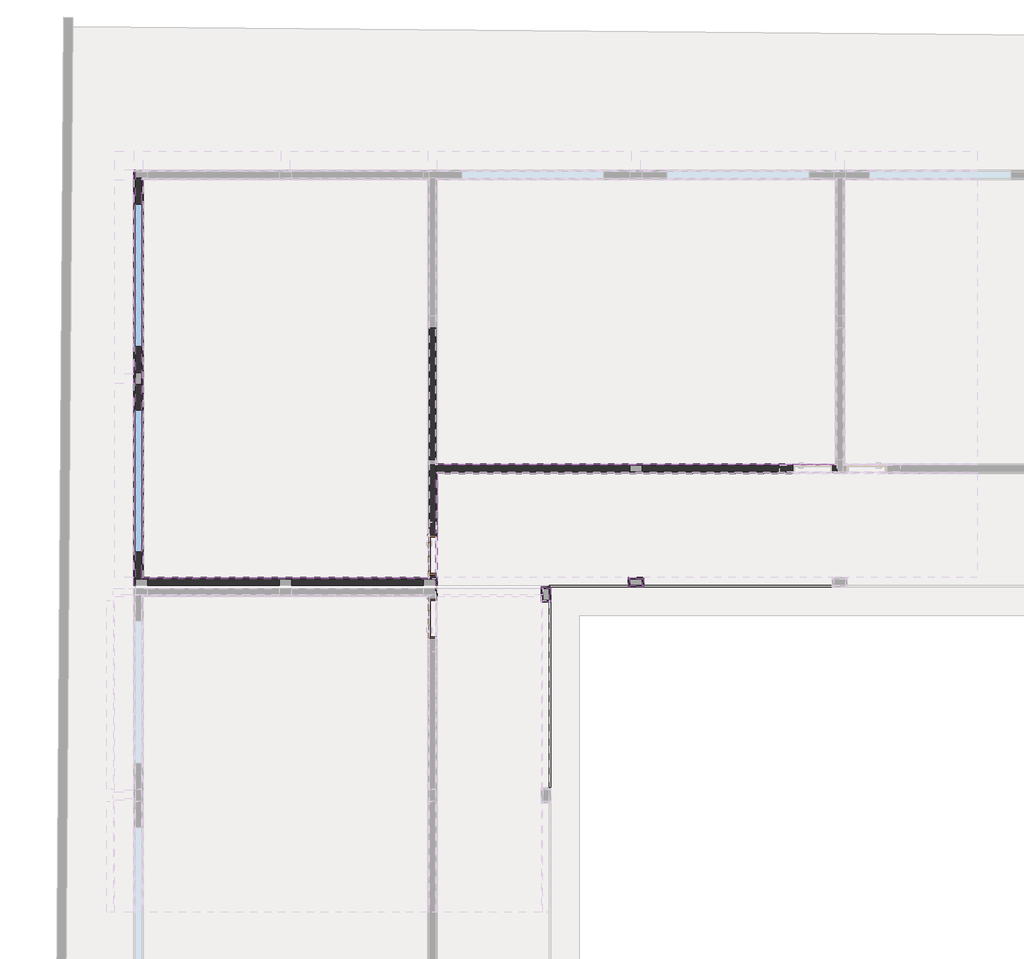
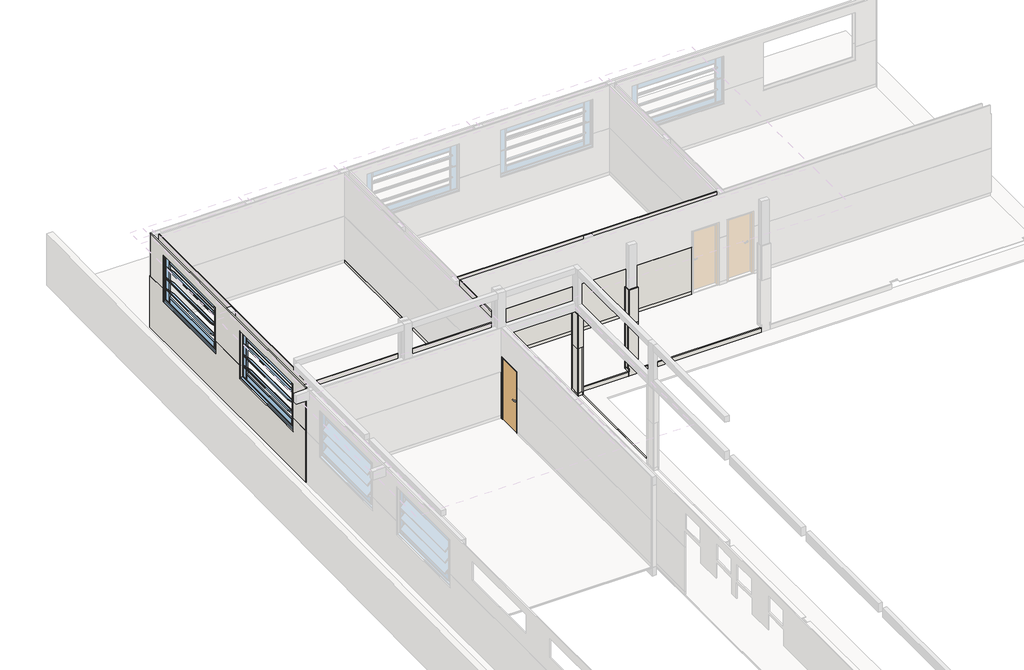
# One storey, part 5 of 11: 59 walls, 2 doors, 2 windows.
"""IFC4 building model written with IfcOpenShell, lengths in millimetres."""

from ifc_helpers import new_model, si_unit, frame, origin, place, context, project, spatial, polyline, outline, extrude, faceted_brep, transform, mapped, element, save
from components import door_80_x_210_cm_externa_36d8658d, door_80_x_210_cm_externa_7cd48cfd, window_9a90df48

model = new_model("IFC4")

# Units and contexts
model_context = context("Model", 3, world=origin())
ifc_project = project(units=[si_unit("LENGTHUNIT", "METRE", prefix="MILLI")], contexts=[model_context])

# Site, building, storey
site = spatial("IfcSite", under=ifc_project)
building = spatial("IfcBuilding", under=site)
storey = spatial("IfcBuildingStorey", under=building, Name="NÍVEL 1", Elevation=43.4413576)

# Doors
placement = place(None, origin())
door_80_x_210_cm_externa_shape = door_80_x_210_cm_externa_36d8658d(model_context)
element("IfcDoor", 1, ObjectType="POR_PM_GIRO_1FL : 80 x 210 cm Externa", at=placement, inside=storey, context=model_context, shape_type="MappedRepresentation", body=[
    mapped(door_80_x_210_cm_externa_shape, transform((9202.3574069, 7302.0719642, 63.4413576), x_axis=(0.0, -1.0, 0.0), y_axis=(1.0, 0.0, 0.0), z_axis=(0.0, 0.0, 1.0))),
])
door_80_x_210_cm_externa_2_shape = door_80_x_210_cm_externa_7cd48cfd(model_context)
element("IfcDoor", 2, ObjectType="POR_PM_GIRO_1FL : 80 x 210 cm Externa", at=placement, inside=storey, context=model_context, shape_type="MappedRepresentation", body=[
    mapped(door_80_x_210_cm_externa_2_shape, transform((9202.3574069, 8642.0719642, 63.4413576), x_axis=(0.0, 1.0, 0.0), y_axis=(-1.0, 0.0, 0.0), z_axis=(0.0, 0.0, 1.0))),
])

# Walls
element("IfcWall", 3, ObjectType="RODAPÉ EM GRANILITE", at=placement, inside=storey, context=model_context, shape_type="Brep", body=[
    faceted_brep([(11502.3574069, 7972.0719642, 43.4413576), (11502.3574069, 7652.0719642, 43.4413576), (11502.3574069, 7652.0719642, 143.4413576), (11502.3574069, 7972.0719642, 143.4413576), (11532.3574069, 7972.0719642, 43.4413576), (11532.3574069, 7972.0719642, 143.4413576), (11532.3574069, 7942.0719642, 143.4413576), (11532.3574069, 7912.0719642, 143.4413576), (11532.3574069, 7682.0719642, 143.4413576), (11532.3574069, 7652.0719642, 143.4413576), (11532.3574069, 7652.0719642, 43.4413576), (11532.3574069, 7682.0719642, 43.4413576), (11532.3574069, 7912.0719642, 43.4413576), (11532.3574069, 7942.0719642, 43.4413576)], [[[0, 1, 2, 3]], [[4, 5, 6, 7, 8, 9, 10, 11, 12, 13]], [[1, 0, 4, 13, 12, 11, 10]], [[3, 2, 9, 8, 7, 6, 5]], [[2, 1, 10, 9]], [[0, 3, 5, 4]]]),
])
element("IfcWall", 4, ObjectType="RODAPÉ EM GRANILITE", at=placement, inside=storey, context=model_context, shape_type="Brep", body=[
    faceted_brep([(11532.3574069, 7652.0719642, 43.4413576), (11672.3574069, 7652.0719642, 43.4413576), (11672.3574069, 7652.0719642, 143.4413576), (11532.3574069, 7652.0719642, 143.4413576), (11532.3574069, 7682.0719642, 43.4413576), (11532.3574069, 7682.0719642, 143.4413576), (11672.3574069, 7682.0719642, 143.4413576), (11672.3574069, 7682.0719642, 43.4413576), (11672.3574069, 7667.0719642, 43.4413576)], [[[0, 1, 2, 3]], [[4, 5, 6, 7]], [[1, 0, 4, 7, 8]], [[3, 2, 6, 5]], [[0, 3, 5, 4]], [[2, 1, 8, 7, 6]]]),
])
element("IfcWall", 5, ObjectType="MASSA ÚNICA PARA BARRADO", at=placement, inside=storey, context=model_context, shape_type="Brep", body=[
    faceted_brep([(11702.3574069, 7667.0719642, -106.5586424), (11702.3574069, 7972.0719642, -106.5586424), (11702.3574069, 7972.0719642, 1663.4413576), (11702.3574069, 7652.0719642, 1663.4413576), (11702.3574069, 7652.0719642, 43.4413576), (11702.3574069, 7667.0719642, 43.4413576), (11672.3574069, 7667.0719642, -106.5586424), (11672.3574069, 7667.0719642, 43.4413576), (11672.3574069, 7652.0719642, 43.4413576), (11672.3574069, 7652.0719642, 143.4413576), (11672.3574069, 7652.0719642, 1663.4413576), (11672.3574069, 7682.0719642, 1663.4413576), (11672.3574069, 7942.0719642, 1663.4413576), (11672.3574069, 7972.0719642, 1663.4413576), (11672.3574069, 7972.0719642, 143.4413576), (11672.3574069, 7972.0719642, 43.4413576), (11672.3574069, 7972.0719642, -106.5586424)], [[[0, 1, 2, 3, 4, 5]], [[6, 7, 8, 9, 10, 11, 12, 13, 14, 15, 16]], [[1, 0, 6, 16]], [[3, 2, 13, 12, 11, 10]], [[0, 5, 7, 6]], [[4, 8, 7, 5]], [[3, 10, 9, 8, 4]], [[1, 16, 15, 14, 13, 2]]]),
])
element("IfcWall", 6, ObjectType="MASSA ÚNICA PARA BARRADO", at=placement, inside=storey, context=model_context, shape_type="Brep", body=[
    faceted_brep([(11702.3574069, 3717.0719642, -106.5586424), (11702.3574069, 7667.0719642, -106.5586424), (11702.3574069, 7667.0719642, 43.4413576), (11702.3574069, 7652.0719642, 43.4413576), (11702.3574069, 3732.0719642, 43.4413576), (11702.3574069, 3717.0719642, 43.4413576), (11672.3574069, 3717.0719642, -106.5586424), (11672.3574069, 3717.0719642, 43.4413576), (11672.3574069, 3732.0719642, 43.4413576), (11672.3574069, 7652.0719642, 43.4413576), (11672.3574069, 7667.0719642, 43.4413576), (11672.3574069, 7667.0719642, -106.5586424)], [[[0, 1, 2, 3, 4, 5]], [[6, 7, 8, 9, 10, 11]], [[1, 0, 6, 11]], [[2, 1, 11, 10]], [[5, 4, 3, 2, 10, 9, 8, 7]], [[0, 5, 7, 6]]]),
])
element("IfcWall", 7, ObjectType="PARE.ALVE ALVENARIA DE BLOCOS CERÂMICOS FURADOS NA HORIZONTAL 14X9X19", at=placement, inside=storey, context=model_context, shape_type="SweptSolid", body=[
    extrude(outline(polyline([(5972.3574069, 8002.0719642), (3192.3574069, 8002.0719642), (3192.3574069, 8142.0719642), (5972.3574069, 8142.0719642), (5972.3574069, 8002.0719642)])), frame((0.0, 0.0, 43.4413576), z_axis=(0.0, 0.0, 1.0), x_axis=(1.0, 0.0, 0.0)), (0.0, 0.0, 1.0), 2800.0),
])
element("IfcWall", 8, ObjectType="PARE.ALVE ALVENARIA DE BLOCOS CERÂMICOS FURADOS NA HORIZONTAL 14X9X19", at=placement, inside=storey, context=model_context, shape_type="SweptSolid", body=[
    extrude(outline(polyline([(9012.3574069, 8002.0719642), (6232.3574069, 8002.0719642), (6232.3574069, 8142.0719642), (9012.3574069, 8142.0719642), (9012.3574069, 8002.0719642)])), frame((0.0, 0.0, 43.4413576), z_axis=(0.0, 0.0, 1.0), x_axis=(1.0, 0.0, 0.0)), (0.0, 0.0, 1.0), 2800.0),
])
element("IfcWall", 9, ObjectType="PARE.ALVE ALVENARIA DE BLOCOS CERÂMICOS FURADOS NA HORIZONTAL 14X9X19", at=placement, inside=storey, context=model_context, shape_type="Brep", body=[
    faceted_brep([(9272.3574069, 10542.0719642, 2843.4413576), (9272.3574069, 10402.0719642, 2843.4413576), (9272.3574069, 8142.0719642, 2843.4413576), (9272.3574069, 8142.0719642, 2308.4413576), (9272.3574069, 9342.0719642, 2308.4413576), (9272.3574069, 9342.0719642, 2208.4413576), (9272.3574069, 8142.0719642, 2208.4413576), (9272.3574069, 8142.0719642, 43.4413576), (9272.3574069, 8222.0719642, 43.4413576), (9272.3574069, 8222.0719642, 2163.4413576), (9272.3574069, 9062.0719642, 2163.4413576), (9272.3574069, 9062.0719642, 43.4413576), (9272.3574069, 10402.0719642, 43.4413576), (9272.3574069, 10542.0719642, 43.4413576), (9132.3574069, 8142.0719642, 2843.4413576), (9132.3574069, 10542.0719642, 2843.4413576), (9132.3574069, 10542.0719642, 43.4413576), (9132.3574069, 9062.0719642, 43.4413576), (9132.3574069, 9062.0719642, 2163.4413576), (9132.3574069, 8222.0719642, 2163.4413576), (9132.3574069, 8222.0719642, 43.4413576), (9132.3574069, 8142.0719642, 43.4413576), (9132.3574069, 8142.0719642, 63.4413576), (9132.3574069, 8142.0719642, 163.4413576), (9132.3574069, 8142.0719642, 1663.4413576), (9132.3574069, 8142.0719642, 2208.4413576), (9132.3574069, 9342.0719642, 2208.4413576), (9132.3574069, 9342.0719642, 2308.4413576), (9132.3574069, 8142.0719642, 2308.4413576)], [[[0, 1, 2, 3, 4, 5, 6, 7, 8, 9, 10, 11, 12, 13]], [[14, 15, 16, 17, 18, 19, 20, 21, 22, 23, 24, 25, 26, 27, 28]], [[8, 7, 21, 20]], [[11, 17, 16, 13, 12]], [[2, 1, 0, 15, 14]], [[9, 8, 20, 19]], [[11, 10, 18, 17]], [[10, 9, 19, 18]], [[0, 13, 16, 15]], [[27, 4, 3, 28]], [[5, 26, 25, 6]], [[4, 27, 26, 5]], [[2, 14, 28, 3]], [[21, 7, 6, 25, 24, 23, 22]]]),
])
element("IfcWall", 10, ObjectType="PARE.ALVE ALVENARIA DE BLOCOS CERÂMICOS FURADOS NA HORIZONTAL 14X9X19", at=placement, inside=storey, context=model_context, shape_type="Brep", body=[
    faceted_brep([(9272.3574069, 10402.0719642, 43.4413576), (13372.3574069, 10402.0719642, 43.4413576), (13372.3574069, 10402.0719642, 2843.4413576), (9272.3574069, 10402.0719642, 2843.4413576), (9272.3574069, 10542.0719642, 43.4413576), (9272.3574069, 10542.0719642, 1663.4413576), (9272.3574069, 10542.0719642, 2843.4413576), (13372.3574069, 10542.0719642, 2843.4413576), (13372.3574069, 10542.0719642, 43.4413576)], [[[0, 1, 2, 3]], [[4, 5, 6, 7, 8]], [[1, 0, 4, 8]], [[2, 1, 8, 7]], [[3, 2, 7, 6]], [[0, 3, 6, 5, 4]]]),
])
element("IfcWall", 11, ObjectType="PARE.ALVE ALVENARIA DE BLOCOS CERÂMICOS FURADOS NA HORIZONTAL 14X9X19", at=placement, inside=storey, context=model_context, shape_type="Brep", body=[
    faceted_brep([(17732.3574069, 10402.0719642, 2843.4413576), (13632.3574069, 10402.0719642, 2843.4413576), (13632.3574069, 10402.0719642, 43.4413576), (16812.3574069, 10402.0719642, 43.4413576), (16812.3574069, 10402.0719642, 2163.4413576), (17652.3574069, 10402.0719642, 2163.4413576), (17652.3574069, 10402.0719642, 43.4413576), (17732.3574069, 10402.0719642, 43.4413576), (17732.3574069, 10402.0719642, 2208.4413576), (16532.3574069, 10402.0719642, 2208.4413576), (16532.3574069, 10402.0719642, 2308.4413576), (17732.3574069, 10402.0719642, 2308.4413576), (13632.3574069, 10542.0719642, 2843.4413576), (17732.3574069, 10542.0719642, 2843.4413576), (17732.3574069, 10542.0719642, 2308.4413576), (16532.3574069, 10542.0719642, 2308.4413576), (16532.3574069, 10542.0719642, 2208.4413576), (17732.3574069, 10542.0719642, 2208.4413576), (17732.3574069, 10542.0719642, 1663.4413576), (17732.3574069, 10542.0719642, 163.4413576), (17732.3574069, 10542.0719642, 63.4413576), (17732.3574069, 10542.0719642, 43.4413576), (17652.3574069, 10542.0719642, 43.4413576), (17652.3574069, 10542.0719642, 2163.4413576), (16812.3574069, 10542.0719642, 2163.4413576), (16812.3574069, 10542.0719642, 43.4413576), (13632.3574069, 10542.0719642, 43.4413576)], [[[0, 1, 2, 3, 4, 5, 6, 7, 8, 9, 10, 11]], [[12, 13, 14, 15, 16, 17, 18, 19, 20, 21, 22, 23, 24, 25, 26]], [[2, 26, 25, 3]], [[7, 6, 22, 21]], [[1, 0, 13, 12]], [[2, 1, 12, 26]], [[5, 23, 22, 6]], [[24, 4, 3, 25]], [[23, 5, 4, 24]], [[10, 15, 14, 11]], [[15, 10, 9, 16]], [[16, 9, 8, 17]], [[7, 21, 20, 19, 18, 17, 8]], [[13, 0, 11, 14]]]),
])
element("IfcWall", 12, ObjectType="PARE.ALVE ALVENARIA DE BLOCOS CERÂMICOS FURADOS NA HORIZONTAL 14X9X19", at=placement, inside=storey, context=model_context, shape_type="Brep", body=[
    faceted_brep([(2932.3574069, 16602.0719642, 43.4413576), (2932.3574069, 12502.0719642, 43.4413576), (2932.3574069, 12502.0719642, 1003.4413576), (2932.3574069, 16602.0719642, 1003.4413576), (3072.3574069, 12502.0719642, 43.4413576), (3072.3574069, 16602.0719642, 43.4413576), (3072.3574069, 16602.0719642, 63.4413576), (3072.3574069, 16602.0719642, 163.4413576), (3072.3574069, 16602.0719642, 1003.4413576), (3072.3574069, 12502.0719642, 1003.4413576)], [[[0, 1, 2, 3]], [[4, 5, 6, 7, 8, 9]], [[1, 0, 5, 4]], [[1, 4, 9, 2]], [[3, 2, 9, 8]], [[5, 0, 3, 8, 7, 6]]]),
    faceted_brep([(2932.3574069, 12502.0719642, 1203.4413576), (2932.3574069, 12502.0719642, 2843.4413576), (2932.3574069, 13052.0719642, 2843.4413576), (2932.3574069, 13052.0719642, 1203.4413576), (3072.3574069, 12502.0719642, 2843.4413576), (3072.3574069, 12502.0719642, 1203.4413576), (3072.3574069, 13052.0719642, 1203.4413576), (3072.3574069, 13052.0719642, 2843.4413576)], [[[0, 1, 2, 3]], [[4, 5, 6, 7]], [[4, 1, 0, 5]], [[1, 4, 7, 2]], [[5, 0, 3, 6]], [[3, 2, 7, 6]]]),
    faceted_brep([(2932.3574069, 16602.0719642, 2843.4413576), (2932.3574069, 16602.0719642, 1203.4413576), (2932.3574069, 16052.0719642, 1203.4413576), (2932.3574069, 16052.0719642, 2843.4413576), (3072.3574069, 16602.0719642, 1203.4413576), (3072.3574069, 16602.0719642, 2843.4413576), (3072.3574069, 16052.0719642, 2843.4413576), (3072.3574069, 16052.0719642, 1203.4413576)], [[[0, 1, 2, 3]], [[4, 5, 6, 7]], [[5, 0, 3, 6]], [[1, 4, 7, 2]], [[3, 2, 7, 6]], [[0, 5, 4, 1]]]),
])
element("IfcWall", 13, ObjectType="PARE.ALVE ALVENARIA DE BLOCOS CERÂMICOS FURADOS NA HORIZONTAL 14X9X19", at=placement, inside=storey, context=model_context, shape_type="Brep", body=[
    faceted_brep([(2932.3574069, 12242.0719642, 43.4413576), (2932.3574069, 8142.0719642, 43.4413576), (2932.3574069, 8142.0719642, 1003.4413576), (2932.3574069, 12242.0719642, 1003.4413576), (3072.3574069, 8142.0719642, 43.4413576), (3072.3574069, 12242.0719642, 43.4413576), (3072.3574069, 12242.0719642, 1003.4413576), (3072.3574069, 8142.0719642, 1003.4413576), (3072.3574069, 8142.0719642, 163.4413576)], [[[0, 1, 2, 3]], [[4, 5, 6, 7, 8]], [[1, 0, 5, 4]], [[5, 0, 3, 6]], [[3, 2, 7, 6]], [[1, 4, 8, 7, 2]]]),
    faceted_brep([(2932.3574069, 8142.0719642, 1203.4413576), (2932.3574069, 8142.0719642, 2843.4413576), (2932.3574069, 8707.0719642, 2843.4413576), (2932.3574069, 8707.0719642, 1203.4413576), (3072.3574069, 8142.0719642, 2843.4413576), (3072.3574069, 8142.0719642, 1663.4413576), (3072.3574069, 8142.0719642, 1203.4413576), (3072.3574069, 8707.0719642, 1203.4413576), (3072.3574069, 8707.0719642, 2843.4413576)], [[[0, 1, 2, 3]], [[4, 5, 6, 7, 8]], [[1, 4, 8, 2]], [[6, 0, 3, 7]], [[4, 1, 0, 6, 5]], [[3, 2, 8, 7]]]),
    faceted_brep([(2932.3574069, 12242.0719642, 2843.4413576), (2932.3574069, 12242.0719642, 1203.4413576), (2932.3574069, 11707.0719642, 1203.4413576), (2932.3574069, 11707.0719642, 2843.4413576), (3072.3574069, 12242.0719642, 1203.4413576), (3072.3574069, 12242.0719642, 2843.4413576), (3072.3574069, 11707.0719642, 2843.4413576), (3072.3574069, 11707.0719642, 1203.4413576)], [[[0, 1, 2, 3]], [[4, 5, 6, 7]], [[5, 0, 3, 6]], [[0, 5, 4, 1]], [[1, 4, 7, 2]], [[3, 2, 7, 6]]]),
])
element("IfcWall", 14, ObjectType="PARE.ALVE ALVENARIA DE BLOCOS CERÂMICOS FURADOS NA HORIZONTAL 14X9X19", at=placement, inside=storey, context=model_context, shape_type="SweptSolid", body=[
    extrude(outline(polyline([(9272.3574069, 13442.0719642), (9272.3574069, 10662.0719642), (9132.3574069, 10662.0719642), (9132.3574069, 13442.0719642), (9272.3574069, 13442.0719642)])), frame((0.0, 0.0, 43.4413576), z_axis=(0.0, 0.0, 1.0), x_axis=(1.0, 0.0, 0.0)), (0.0, 0.0, 1.0), 2800.0),
])
element("IfcWall", 15, ObjectType="RODAPÉ EM GRANILITE", at=placement, inside=storey, context=model_context, shape_type="Brep", body=[
    faceted_brep([(9102.3574069, 7802.0719642, 63.4413576), (9102.3574069, 7772.0719642, 63.4413576), (9102.3574069, 7752.0719642, 63.4413576), (9102.3574069, 7752.0719642, 163.4413576), (9102.3574069, 7772.0719642, 163.4413576), (9102.3574069, 7802.0719642, 163.4413576), (9132.3574069, 7802.0719642, 63.4413576), (9132.3574069, 7802.0719642, 163.4413576), (9132.3574069, 7752.0719642, 163.4413576), (9132.3574069, 7752.0719642, 63.4413576)], [[[0, 1, 2, 3, 4, 5]], [[6, 7, 8, 9]], [[2, 1, 0, 6, 9]], [[3, 2, 9, 8]], [[5, 4, 3, 8, 7]], [[0, 5, 7, 6]]]),
])
element("IfcWall", 16, ObjectType="RODAPÉ EM GRANILITE", at=placement, inside=storey, context=model_context, shape_type="Brep", body=[
    faceted_brep([(3102.3574069, 8142.0719642, 63.4413576), (3102.3574069, 8172.0719642, 63.4413576), (3102.3574069, 16572.0719642, 63.4413576), (3102.3574069, 16572.0719642, 163.4413576), (3102.3574069, 8172.0719642, 163.4413576), (3102.3574069, 8142.0719642, 163.4413576), (3072.3574069, 8142.0719642, 63.4413576), (3072.3574069, 8142.0719642, 163.4413576), (3072.3574069, 16572.0719642, 163.4413576), (3072.3574069, 16572.0719642, 63.4413576)], [[[0, 1, 2, 3, 4, 5]], [[6, 7, 8, 9]], [[2, 1, 0, 6, 9]], [[5, 4, 3, 8, 7]], [[3, 2, 9, 8]], [[0, 5, 7, 6]]]),
])
element("IfcWall", 17, ObjectType="RODAPÉ EM GRANILITE", at=placement, inside=storey, context=model_context, shape_type="SweptSolid", body=[
    extrude(outline(polyline([(9102.3574069, 9092.0719642), (9102.3574069, 16572.0719642), (9132.3574069, 16572.0719642), (9132.3574069, 9092.0719642), (9102.3574069, 9092.0719642)])), frame((0.0, 0.0, 63.4413576), z_axis=(0.0, 0.0, 1.0), x_axis=(1.0, 0.0, 0.0)), (0.0, 0.0, 1.0), 100.0),
])
element("IfcWall", 18, ObjectType="RODAPÉ EM GRANILITE", at=placement, inside=storey, context=model_context, shape_type="SweptSolid", body=[
    extrude(outline(polyline([(9102.3574069, 8172.0719642), (9102.3574069, 8192.0719642), (9132.3574069, 8192.0719642), (9132.3574069, 8172.0719642), (9102.3574069, 8172.0719642)])), frame((0.0, 0.0, 63.4413576), z_axis=(0.0, 0.0, 1.0), x_axis=(1.0, 0.0, 0.0)), (0.0, 0.0, 1.0), 100.0),
])
element("IfcWall", 19, ObjectType="RODAPÉ EM GRANILITE", at=placement, inside=storey, context=model_context, shape_type="Brep", body=[
    faceted_brep([(9132.3574069, 8172.0719642, 63.4413576), (9102.3574069, 8172.0719642, 63.4413576), (3102.3574069, 8172.0719642, 63.4413576), (3102.3574069, 8172.0719642, 163.4413576), (9102.3574069, 8172.0719642, 163.4413576), (9132.3574069, 8172.0719642, 163.4413576), (9132.3574069, 8142.0719642, 63.4413576), (9132.3574069, 8142.0719642, 163.4413576), (3102.3574069, 8142.0719642, 163.4413576), (3102.3574069, 8142.0719642, 63.4413576)], [[[0, 1, 2, 3, 4, 5]], [[6, 7, 8, 9]], [[2, 1, 0, 6, 9]], [[5, 4, 3, 8, 7]], [[0, 5, 7, 6]], [[3, 2, 9, 8]]]),
])
element("IfcWall", 20, ObjectType="RODAPÉ EM GRANILITE", at=placement, inside=storey, context=model_context, shape_type="Brep", body=[
    faceted_brep([(16782.3574069, 10572.0719642, 63.4413576), (9302.3574069, 10572.0719642, 63.4413576), (9272.3574069, 10572.0719642, 63.4413576), (9272.3574069, 10572.0719642, 163.4413576), (9302.3574069, 10572.0719642, 163.4413576), (16782.3574069, 10572.0719642, 163.4413576), (16782.3574069, 10542.0719642, 63.4413576), (16782.3574069, 10542.0719642, 163.4413576), (9272.3574069, 10542.0719642, 163.4413576), (9272.3574069, 10542.0719642, 63.4413576)], [[[0, 1, 2, 3, 4, 5]], [[6, 7, 8, 9]], [[2, 1, 0, 6, 9]], [[5, 4, 3, 8, 7]], [[0, 5, 7, 6]], [[3, 2, 9, 8]]]),
])
element("IfcWall", 21, ObjectType="RODAPÉ EM GRANILITE", at=placement, inside=storey, context=model_context, shape_type="SweptSolid", body=[
    extrude(outline(polyline([(9302.3574069, 7942.0719642), (9302.3574069, 7747.0719642), (9272.3574069, 7747.0719642), (9272.3574069, 7942.0719642), (9302.3574069, 7942.0719642)])), frame((0.0, 0.0, 43.4413576), z_axis=(0.0, 0.0, 1.0), x_axis=(1.0, 0.0, 0.0)), (0.0, 0.0, 1.0), 100.0),
])
element("IfcWall", 22, ObjectType="RODAPÉ EM GRANILITE", at=placement, inside=storey, context=model_context, shape_type="SweptSolid", body=[
    extrude(outline(polyline([(9302.3574069, 8197.0719642), (9302.3574069, 8002.0719642), (9272.3574069, 8002.0719642), (9272.3574069, 8197.0719642), (9302.3574069, 8197.0719642)])), frame((0.0, 0.0, 43.4413576), z_axis=(0.0, 0.0, 1.0), x_axis=(1.0, 0.0, 0.0)), (0.0, 0.0, 1.0), 100.0),
])
element("IfcWall", 23, ObjectType="RODAPÉ EM GRANILITE", at=placement, inside=storey, context=model_context, shape_type="Brep", body=[
    faceted_brep([(9302.3574069, 9087.0719642, 43.4413576), (9302.3574069, 10372.0719642, 43.4413576), (9302.3574069, 10402.0719642, 43.4413576), (9302.3574069, 10402.0719642, 143.4413576), (9302.3574069, 10372.0719642, 143.4413576), (9302.3574069, 9087.0719642, 143.4413576), (9272.3574069, 9087.0719642, 43.4413576), (9272.3574069, 9087.0719642, 143.4413576), (9272.3574069, 10402.0719642, 143.4413576), (9272.3574069, 10402.0719642, 43.4413576)], [[[0, 1, 2, 3, 4, 5]], [[6, 7, 8, 9]], [[2, 1, 0, 6, 9]], [[5, 4, 3, 8, 7]], [[0, 5, 7, 6]], [[3, 2, 9, 8]]]),
])
element("IfcWall", 24, ObjectType="RODAPÉ EM GRANILITE", at=placement, inside=storey, context=model_context, shape_type="SweptSolid", body=[
    extrude(outline(polyline([(16787.3574069, 10372.0719642), (9302.3574069, 10372.0719642), (9302.3574069, 10402.0719642), (16787.3574069, 10402.0719642), (16787.3574069, 10372.0719642)])), frame((0.0, 0.0, 43.4413576), z_axis=(0.0, 0.0, 1.0), x_axis=(1.0, 0.0, 0.0)), (0.0, 0.0, 1.0), 100.0),
])
element("IfcWall", 25, ObjectType="MASSA ÚNICA PARA BARRADO", at=placement, inside=storey, context=model_context, shape_type="SweptSolid", body=[
    extrude(outline(polyline([(9102.3574069, 7752.0719642), (9102.3574069, 7772.0719642), (9132.3574069, 7772.0719642), (9132.3574069, 7752.0719642), (9102.3574069, 7752.0719642)])), frame((0.0, 0.0, 163.4413576), z_axis=(0.0, 0.0, 1.0), x_axis=(1.0, 0.0, 0.0)), (0.0, 0.0, 1.0), 1500.0),
])
element("IfcWall", 26, ObjectType="MASSA ÚNICA PARA BARRADO", at=placement, inside=storey, context=model_context, shape_type="SweptSolid", body=[
    extrude(outline(polyline([(9102.3574069, 8172.0719642), (9102.3574069, 8192.0719642), (9132.3574069, 8192.0719642), (9132.3574069, 8172.0719642), (9102.3574069, 8172.0719642)])), frame((0.0, 0.0, 163.4413576), z_axis=(0.0, 0.0, 1.0), x_axis=(1.0, 0.0, 0.0)), (0.0, 0.0, 1.0), 1500.0),
])
element("IfcWall", 27, ObjectType="MASSA ÚNICA PARA BARRADO", at=placement, inside=storey, context=model_context, shape_type="Brep", body=[
    faceted_brep([(9132.3574069, 8172.0719642, 163.4413576), (9102.3574069, 8172.0719642, 163.4413576), (3102.3574069, 8172.0719642, 163.4413576), (3072.3574069, 8172.0719642, 163.4413576), (3072.3574069, 8172.0719642, 1663.4413576), (3102.3574069, 8172.0719642, 1663.4413576), (9102.3574069, 8172.0719642, 1663.4413576), (9132.3574069, 8172.0719642, 1663.4413576), (9132.3574069, 8142.0719642, 163.4413576), (9132.3574069, 8142.0719642, 1663.4413576), (3072.3574069, 8142.0719642, 1663.4413576), (3072.3574069, 8142.0719642, 1203.4413576), (3072.3574069, 8142.0719642, 1003.4413576), (3072.3574069, 8142.0719642, 163.4413576), (3102.3574069, 8142.0719642, 163.4413576)], [[[0, 1, 2, 3, 4, 5, 6, 7]], [[8, 9, 10, 11, 12, 13, 14]], [[3, 2, 1, 0, 8, 14, 13]], [[7, 6, 5, 4, 10, 9]], [[0, 7, 9, 8]], [[4, 3, 13, 12, 11, 10]]]),
])
element("IfcWall", 28, ObjectType="MASSA ÚNICA PARA BARRADO", at=placement, inside=storey, context=model_context, shape_type="SweptSolid", body=[
    extrude(outline(polyline([(16572.0719642, 163.4413576), (8172.0719642, 163.4413576), (8172.0719642, 1663.4413576), (8707.0719642, 1663.4413576), (8707.0719642, 1203.4413576), (11707.0748984, 1203.4413576), (11707.0748984, 1663.4413576), (13052.0748984, 1663.4413576), (13052.0748984, 1203.4413576), (16052.0719642, 1203.4413576), (16052.0719642, 1663.4413576), (16572.0719642, 1663.4413576), (16572.0719642, 163.4413576)])), frame((3072.3574069, 0.0, 0.0), z_axis=(1.0, 0.0, 0.0), x_axis=(0.0, 1.0, 0.0)), (0.0, 0.0, 1.0), 30.0),
])
element("IfcWall", 29, ObjectType="MASSA ÚNICA PARA BARRADO", at=placement, inside=storey, context=model_context, shape_type="Brep", body=[
    faceted_brep([(16782.3574069, 10572.0719642, 163.4413576), (9302.3574069, 10572.0719642, 163.4413576), (9272.3574069, 10572.0719642, 163.4413576), (9272.3574069, 10572.0719642, 1663.4413576), (9302.3574069, 10572.0719642, 1663.4413576), (16782.3574069, 10572.0719642, 1663.4413576), (16782.3574069, 10542.0719642, 163.4413576), (16782.3574069, 10542.0719642, 1663.4413576), (9272.3574069, 10542.0719642, 1663.4413576), (9272.3574069, 10542.0719642, 163.4413576)], [[[0, 1, 2, 3, 4, 5]], [[6, 7, 8, 9]], [[2, 1, 0, 6, 9]], [[5, 4, 3, 8, 7]], [[0, 5, 7, 6]], [[3, 2, 9, 8]]]),
])
element("IfcWall", 30, ObjectType="MASSA ÚNICA PARA LATEX", at=placement, inside=storey, context=model_context, shape_type="Brep", body=[
    faceted_brep([(9132.3574069, 8172.0719642, 3143.4413576), (9132.3574069, 8172.0719642, 1663.4413576), (9102.3574069, 8172.0719642, 1663.4413576), (3102.3574069, 8172.0719642, 1663.4413576), (3072.3574069, 8172.0719642, 1663.4413576), (3072.3574069, 8172.0719642, 3143.4413576), (3102.3574069, 8172.0719642, 3143.4413576), (9102.3574069, 8172.0719642, 3143.4413576), (9132.3574069, 8142.0719642, 1663.4413576), (9132.3574069, 8142.0719642, 2208.4413576), (9132.3574069, 8142.0719642, 2308.4413576), (9132.3574069, 8142.0719642, 2843.4413576), (9132.3574069, 8142.0719642, 3143.4413576), (3072.3574069, 8142.0719642, 3143.4413576), (3072.3574069, 8142.0719642, 2843.4413576), (3072.3574069, 8142.0719642, 1663.4413576)], [[[0, 1, 2, 3, 4, 5, 6, 7]], [[8, 9, 10, 11, 12, 13, 14, 15]], [[4, 3, 2, 1, 8, 15]], [[0, 7, 6, 5, 13, 12]], [[0, 12, 11, 10, 9, 8, 1]], [[5, 4, 15, 14, 13]]]),
])
element("IfcWall", 31, ObjectType="MASSA ÚNICA PARA LATEX", at=placement, inside=storey, context=model_context, shape_type="SweptSolid", body=[
    extrude(outline(polyline([(16572.0719642, 3143.4413576), (16572.0719642, 1663.4413576), (16052.0719642, 1663.4413576), (16052.0719642, 2843.4413576), (13052.0461074, 2843.4413576), (13052.0461074, 1663.4413576), (11707.0461074, 1663.4413576), (11707.0461074, 2843.4413576), (8707.0719642, 2843.4413576), (8707.0719642, 1663.4413576), (8172.0719642, 1663.4413576), (8172.0719642, 3143.4413576), (16572.0719642, 3143.4413576)])), frame((3072.3574069, 0.0, 0.0), z_axis=(1.0, 0.0, 0.0), x_axis=(0.0, 1.0, 0.0)), (0.0, 0.0, 1.0), 30.0),
])
element("IfcWall", 32, ObjectType="MASSA ÚNICA PARA LATEX", at=placement, inside=storey, context=model_context, shape_type="SweptSolid", body=[
    extrude(outline(polyline([(3143.4413576, 9302.3574069), (1663.4413576, 9302.3574069), (1663.4413576, 16782.3574069), (2213.4413576, 16782.3574069), (2213.4413576, 17682.3574069), (1663.4413576, 17682.3574069), (1663.4413576, 17702.3574069), (3143.4413576, 17702.3574069), (3143.4413576, 9302.3574069)])), frame((0.0, 10542.0719642, 0.0), z_axis=(0.0, 1.0, 0.0), x_axis=(0.0, 0.0, 1.0)), (0.0, 0.0, 1.0), 30.0),
])
element("IfcWall", 33, ObjectType="MASSA ÚNICA PARA BARRADO", at=placement, inside=storey, context=model_context, shape_type="SweptSolid", body=[
    extrude(outline(polyline([(9302.3574069, 7942.0719642), (9302.3574069, 7747.0719642), (9272.3574069, 7747.0719642), (9272.3574069, 7942.0719642), (9302.3574069, 7942.0719642)])), frame((0.0, 0.0, 143.4413576), z_axis=(0.0, 0.0, 1.0), x_axis=(1.0, 0.0, 0.0)), (0.0, 0.0, 1.0), 1520.0),
])
element("IfcWall", 34, ObjectType="MASSA ÚNICA PARA BARRADO", at=placement, inside=storey, context=model_context, shape_type="SweptSolid", body=[
    extrude(outline(polyline([(9302.3574069, 8197.0719642), (9302.3574069, 8002.0719642), (9272.3574069, 8002.0719642), (9272.3574069, 8197.0719642), (9302.3574069, 8197.0719642)])), frame((0.0, 0.0, 143.4413576), z_axis=(0.0, 0.0, 1.0), x_axis=(1.0, 0.0, 0.0)), (0.0, 0.0, 1.0), 1520.0),
])
element("IfcWall", 35, ObjectType="MASSA ÚNICA PARA BARRADO", at=placement, inside=storey, context=model_context, shape_type="Brep", body=[
    faceted_brep([(9302.3574069, 9087.0719642, 143.4413576), (9302.3574069, 10372.0719642, 143.4413576), (9302.3574069, 10402.0719642, 143.4413576), (9302.3574069, 10402.0719642, 1663.4413576), (9302.3574069, 10372.0719642, 1663.4413576), (9302.3574069, 9087.0719642, 1663.4413576), (9272.3574069, 9087.0719642, 143.4413576), (9272.3574069, 9087.0719642, 1663.4413576), (9272.3574069, 10402.0719642, 1663.4413576), (9272.3574069, 10402.0719642, 143.4413576)], [[[0, 1, 2, 3, 4, 5]], [[6, 7, 8, 9]], [[2, 1, 0, 6, 9]], [[5, 4, 3, 8, 7]], [[0, 5, 7, 6]], [[3, 2, 9, 8]]]),
])
element("IfcWall", 36, ObjectType="MASSA ÚNICA PARA BARRADO", at=placement, inside=storey, context=model_context, shape_type="SweptSolid", body=[
    extrude(outline(polyline([(16787.3574069, 10372.0719642), (9302.3574069, 10372.0719642), (9302.3574069, 10402.0719642), (16787.3574069, 10402.0719642), (16787.3574069, 10372.0719642)])), frame((0.0, 0.0, 143.4413576), z_axis=(0.0, 0.0, 1.0), x_axis=(1.0, 0.0, 0.0)), (0.0, 0.0, 1.0), 1520.0),
])
element("IfcWall", 37, ObjectType="RODAPÉ EM GRANILITE", at=placement, inside=storey, context=model_context, shape_type="SweptSolid", body=[
    extrude(outline(polyline([(11672.3574069, 7912.0719642), (11532.3574069, 7912.0719642), (11532.3574069, 7942.0719642), (11672.3574069, 7942.0719642), (11672.3574069, 7912.0719642)])), frame((0.0, 0.0, 43.4413576), z_axis=(0.0, 0.0, 1.0), x_axis=(1.0, 0.0, 0.0)), (0.0, 0.0, 1.0), 100.0),
])
element("IfcWall", 38, ObjectType="RODAPÉ EM GRANILITE", at=placement, inside=storey, context=model_context, shape_type="SweptSolid", body=[
    extrude(outline(polyline([(11532.3574069, 7972.0719642), (11672.3574069, 7972.0719642), (11672.3574069, 7942.0719642), (11532.3574069, 7942.0719642), (11532.3574069, 7972.0719642)])), frame((0.0, 0.0, 43.4413576), z_axis=(0.0, 0.0, 1.0), x_axis=(1.0, 0.0, 0.0)), (0.0, 0.0, 1.0), 100.0),
])
element("IfcWall", 39, ObjectType="RODAPÉ EM GRANILITE", at=placement, inside=storey, context=model_context, shape_type="Brep", body=[
    faceted_brep([(13662.3574069, 7972.0719642, 43.4413576), (13662.3574069, 8172.0719642, 43.4413576), (13662.3574069, 8172.0719642, 143.4413576), (13662.3574069, 8002.0719642, 143.4413576), (13662.3574069, 7972.0719642, 143.4413576), (13632.3574069, 7972.0719642, 43.4413576), (13632.3574069, 7972.0719642, 143.4413576), (13632.3574069, 8002.0719642, 143.4413576), (13632.3574069, 8142.0719642, 143.4413576), (13632.3574069, 8172.0719642, 143.4413576), (13632.3574069, 8172.0719642, 43.4413576), (13632.3574069, 8142.0719642, 43.4413576), (13632.3574069, 8002.0719642, 43.4413576), (13647.3574069, 7972.0719642, 43.4413576)], [[[0, 1, 2, 3, 4]], [[5, 6, 7, 8, 9, 10, 11, 12]], [[1, 0, 13, 5, 12, 11, 10]], [[4, 3, 2, 9, 8, 7, 6]], [[2, 1, 10, 9]], [[0, 4, 6, 5, 13]]]),
])
element("IfcWall", 40, ObjectType="RODAPÉ EM GRANILITE", at=placement, inside=storey, context=model_context, shape_type="Brep", body=[
    faceted_brep([(13632.3574069, 8172.0719642, 43.4413576), (13342.3574069, 8172.0719642, 43.4413576), (13342.3574069, 8172.0719642, 143.4413576), (13632.3574069, 8172.0719642, 143.4413576), (13632.3574069, 8142.0719642, 43.4413576), (13632.3574069, 8142.0719642, 143.4413576), (13372.3574069, 8142.0719642, 143.4413576), (13342.3574069, 8142.0719642, 143.4413576), (13342.3574069, 8142.0719642, 43.4413576), (13372.3574069, 8142.0719642, 43.4413576)], [[[0, 1, 2, 3]], [[4, 5, 6, 7, 8, 9]], [[1, 0, 4, 9, 8]], [[3, 2, 7, 6, 5]], [[0, 3, 5, 4]], [[2, 1, 8, 7]]]),
])
element("IfcWall", 41, ObjectType="RODAPÉ EM GRANILITE", at=placement, inside=storey, context=model_context, shape_type="Brep", body=[
    faceted_brep([(13342.3574069, 8142.0719642, 43.4413576), (13342.3574069, 7972.0719642, 43.4413576), (13342.3574069, 7972.0719642, 143.4413576), (13342.3574069, 8002.0719642, 143.4413576), (13342.3574069, 8142.0719642, 143.4413576), (13372.3574069, 8142.0719642, 43.4413576), (13372.3574069, 8142.0719642, 143.4413576), (13372.3574069, 8002.0719642, 143.4413576), (13372.3574069, 7972.0719642, 143.4413576), (13372.3574069, 7972.0719642, 43.4413576), (13372.3574069, 8002.0719642, 43.4413576), (13357.3574069, 7972.0719642, 43.4413576)], [[[0, 1, 2, 3, 4]], [[5, 6, 7, 8, 9, 10]], [[1, 0, 5, 10, 9, 11]], [[4, 3, 2, 8, 7, 6]], [[0, 4, 6, 5]], [[2, 1, 11, 9, 8]]]),
])
element("IfcWall", 42, ObjectType="MASSA ÚNICA PARA BARRADO", at=placement, inside=storey, context=model_context, shape_type="Brep", body=[
    faceted_brep([(2902.3574069, 16772.0719642, -106.5586424), (2902.3574069, 8002.0719642, -106.5586424), (2902.3574069, 8002.0719642, 1663.4413576), (2902.3574069, 8707.0719642, 1663.4413576), (2902.3574069, 8707.0719642, 1203.4413576), (2902.3574069, 11707.1676341, 1203.4413576), (2902.3574069, 11707.1676341, 1663.4413576), (2902.3574069, 13051.1202484, 1663.4413576), (2902.3574069, 13051.1202484, 1203.4413576), (2902.3574069, 16052.0719642, 1203.4413576), (2902.3574069, 16052.0719642, 1663.4413576), (2902.3574069, 16772.0719642, 1663.4413576), (2932.3574069, 8002.0719642, -106.5586424), (2932.3574069, 16742.0719642, -106.5586424), (2932.3574069, 16772.0719642, -106.5586424), (2932.3574069, 16772.0719642, 1663.4413576), (2932.3574069, 16742.0719642, 1663.4413576), (2932.3574069, 16052.0719642, 1663.4413576), (2932.3574069, 16052.0719642, 1203.4413576), (2932.3574069, 13051.1202484, 1203.4413576), (2932.3574069, 13051.1202484, 1663.4413576), (2932.3574069, 11707.1676341, 1663.4413576), (2932.3574069, 11707.1676341, 1203.4413576), (2932.3574069, 8707.0719642, 1203.4413576), (2932.3574069, 8707.0719642, 1663.4413576), (2932.3574069, 8002.0719642, 1663.4413576)], [[[0, 1, 2, 3, 4, 5, 6, 7, 8, 9, 10, 11]], [[12, 13, 14, 15, 16, 17, 18, 19, 20, 21, 22, 23, 24, 25]], [[1, 0, 14, 13, 12]], [[2, 1, 12, 25]], [[2, 25, 24, 3]], [[15, 11, 10, 17, 16]], [[20, 7, 6, 21]], [[0, 11, 15, 14]], [[8, 19, 18, 9]], [[9, 18, 17, 10]], [[19, 8, 7, 20]], [[4, 23, 22, 5]], [[5, 22, 21, 6]], [[23, 4, 3, 24]]]),
])
element("IfcWall", 43, ObjectType="MASSA ÚNICA SARRAFEADA PARA ACRILICO", at=placement, inside=storey, context=model_context, shape_type="Brep", body=[
    faceted_brep([(9302.3574069, 10402.0719642, 1663.4413576), (9302.3574069, 10402.0719642, 3143.4413576), (9302.3574069, 10372.0719642, 3143.4413576), (9302.3574069, 8002.0719642, 3143.4413576), (9302.3574069, 8002.0719642, 1663.4413576), (9302.3574069, 8197.0719642, 1663.4413576), (9302.3574069, 8197.0719642, 2208.4413576), (9302.3574069, 9087.0719642, 2208.4413576), (9302.3574069, 9087.0719642, 1663.4413576), (9302.3574069, 10372.0719642, 1663.4413576), (9272.3574069, 10402.0719642, 3143.4413576), (9272.3574069, 10402.0719642, 1663.4413576), (9272.3574069, 9087.0719642, 1663.4413576), (9272.3574069, 9087.0719642, 2208.4413576), (9272.3574069, 8197.0719642, 2208.4413576), (9272.3574069, 8197.0719642, 1663.4413576), (9272.3574069, 8002.0719642, 1663.4413576), (9272.3574069, 8002.0719642, 3143.4413576)], [[[0, 1, 2, 3, 4, 5, 6, 7, 8, 9]], [[10, 11, 12, 13, 14, 15, 16, 17]], [[4, 16, 15, 5]], [[11, 0, 9, 8, 12]], [[3, 2, 1, 10, 17]], [[4, 3, 17, 16]], [[1, 0, 11, 10]], [[6, 14, 13, 7]], [[14, 6, 5, 15]], [[7, 13, 12, 8]]]),
])
element("IfcWall", 44, ObjectType="MASSA ÚNICA SARRAFEADA PARA ACRILICO", at=placement, inside=storey, context=model_context, shape_type="Brep", body=[
    faceted_brep([(2902.3574069, 8002.0719642, 1663.4413576), (2902.3574069, 8002.0719642, 3143.4413576), (2902.3574069, 12272.0719642, 3143.4413576), (2902.3574069, 12302.0719642, 3143.4413576), (2902.3574069, 12442.0719642, 3143.4413576), (2902.3574069, 12472.0719642, 3143.4413576), (2902.3574069, 16572.0719642, 3143.4413576), (2902.3574069, 16602.0719642, 3143.4413576), (2902.3574069, 16742.0719642, 3143.4413576), (2902.3574069, 16742.0719642, 1663.4413576), (2902.3574069, 16052.0719642, 1663.4413576), (2902.3574069, 16052.0719642, 2843.4413576), (2902.3574069, 13052.0143127, 2843.4413576), (2902.3574069, 13052.0143127, 1663.4413576), (2902.3574069, 11707.0143127, 1663.4413576), (2902.3574069, 11707.0143127, 2843.4413576), (2902.3574069, 8707.0719642, 2843.4413576), (2902.3574069, 8707.0719642, 1663.4413576), (2932.3574069, 8002.0719642, 3143.4413576), (2932.3574069, 8002.0719642, 1663.4413576), (2932.3574069, 8707.0719642, 1663.4413576), (2932.3574069, 8707.0719642, 2843.4413576), (2932.3574069, 11707.0143127, 2843.4413576), (2932.3574069, 11707.0143127, 1663.4413576), (2932.3574069, 13052.0143127, 1663.4413576), (2932.3574069, 13052.0143127, 2843.4413576), (2932.3574069, 16052.0719642, 2843.4413576), (2932.3574069, 16052.0719642, 1663.4413576), (2932.3574069, 16742.0719642, 1663.4413576), (2932.3574069, 16742.0719642, 3143.4413576)], [[[0, 1, 2, 3, 4, 5, 6, 7, 8, 9, 10, 11, 12, 13, 14, 15, 16, 17]], [[18, 19, 20, 21, 22, 23, 24, 25, 26, 27, 28, 29]], [[19, 0, 17, 20]], [[9, 28, 27, 10]], [[13, 24, 23, 14]], [[1, 0, 19, 18]], [[8, 7, 6, 5, 4, 3, 2, 1, 18, 29]], [[11, 26, 25, 12]], [[26, 11, 10, 27]], [[12, 25, 24, 13]], [[15, 22, 21, 16]], [[22, 15, 14, 23]], [[16, 21, 20, 17]], [[8, 29, 28, 9]]]),
])
element("IfcWall", 45, ObjectType="MASSA ÚNICA PARA BARRADO", at=placement, inside=storey, context=model_context, shape_type="Brep", body=[
    faceted_brep([(11672.3574069, 7972.0719642, 143.4413576), (11502.3574069, 7972.0719642, 143.4413576), (11502.3574069, 7972.0719642, 1663.4413576), (11672.3574069, 7972.0719642, 1663.4413576), (11672.3574069, 7942.0719642, 143.4413576), (11672.3574069, 7942.0719642, 1663.4413576), (11532.3574069, 7942.0719642, 1663.4413576), (11502.3574069, 7942.0719642, 1663.4413576), (11502.3574069, 7942.0719642, 143.4413576), (11532.3574069, 7942.0719642, 143.4413576)], [[[0, 1, 2, 3]], [[4, 5, 6, 7, 8, 9]], [[1, 0, 4, 9, 8]], [[3, 2, 7, 6, 5]], [[0, 3, 5, 4]], [[2, 1, 8, 7]]]),
])
element("IfcWall", 46, ObjectType="MASSA ÚNICA PARA BARRADO", at=placement, inside=storey, context=model_context, shape_type="Brep", body=[
    faceted_brep([(11502.3574069, 7942.0719642, 143.4413576), (11502.3574069, 7652.0719642, 143.4413576), (11502.3574069, 7652.0719642, 1663.4413576), (11502.3574069, 7942.0719642, 1663.4413576), (11532.3574069, 7942.0719642, 143.4413576), (11532.3574069, 7942.0719642, 1663.4413576), (11532.3574069, 7682.0719642, 1663.4413576), (11532.3574069, 7652.0719642, 1663.4413576), (11532.3574069, 7652.0719642, 143.4413576), (11532.3574069, 7682.0719642, 143.4413576)], [[[0, 1, 2, 3]], [[4, 5, 6, 7, 8, 9]], [[1, 0, 4, 9, 8]], [[3, 2, 7, 6, 5]], [[0, 3, 5, 4]], [[2, 1, 8, 7]]]),
])
element("IfcWall", 47, ObjectType="MASSA ÚNICA PARA BARRADO", at=placement, inside=storey, context=model_context, shape_type="SweptSolid", body=[
    extrude(outline(polyline([(11672.3574069, 7652.0719642), (11532.3574069, 7652.0719642), (11532.3574069, 7682.0719642), (11672.3574069, 7682.0719642), (11672.3574069, 7652.0719642)])), frame((0.0, 0.0, 143.4413576), z_axis=(0.0, 0.0, 1.0), x_axis=(1.0, 0.0, 0.0)), (0.0, 0.0, 1.0), 1520.0),
])
element("IfcWall", 48, ObjectType="MASSA ÚNICA SARRAFEADA PARA ACRILICO", at=placement, inside=storey, context=model_context, shape_type="Brep", body=[
    faceted_brep([(11702.3574069, 7972.0719642, 1663.4413576), (11502.3574069, 7972.0719642, 1663.4413576), (11502.3574069, 7972.0719642, 2843.4413576), (11702.3574069, 7972.0719642, 2843.4413576), (11702.3574069, 7942.0719642, 1663.4413576), (11702.3574069, 7942.0719642, 2843.4413576), (11672.3574069, 7942.0719642, 2843.4413576), (11532.3574069, 7942.0719642, 2843.4413576), (11502.3574069, 7942.0719642, 2843.4413576), (11502.3574069, 7942.0719642, 1663.4413576), (11532.3574069, 7942.0719642, 1663.4413576), (11672.3574069, 7942.0719642, 1663.4413576)], [[[0, 1, 2, 3]], [[4, 5, 6, 7, 8, 9, 10, 11]], [[1, 0, 4, 11, 10, 9]], [[3, 2, 8, 7, 6, 5]], [[2, 1, 9, 8]], [[0, 3, 5, 4]]]),
])
element("IfcWall", 49, ObjectType="MASSA ÚNICA SARRAFEADA PARA ACRILICO", at=placement, inside=storey, context=model_context, shape_type="Brep", body=[
    faceted_brep([(11502.3574069, 7942.0719642, 1663.4413576), (11502.3574069, 7652.0719642, 1663.4413576), (11502.3574069, 7652.0719642, 2843.4413576), (11502.3574069, 7942.0719642, 2843.4413576), (11532.3574069, 7942.0719642, 1663.4413576), (11532.3574069, 7942.0719642, 2843.4413576), (11532.3574069, 7682.0719642, 2843.4413576), (11532.3574069, 7652.0719642, 2843.4413576), (11532.3574069, 7652.0719642, 1663.4413576), (11532.3574069, 7682.0719642, 1663.4413576)], [[[0, 1, 2, 3]], [[4, 5, 6, 7, 8, 9]], [[1, 0, 4, 9, 8]], [[3, 2, 7, 6, 5]], [[0, 3, 5, 4]], [[2, 1, 8, 7]]]),
])
element("IfcWall", 50, ObjectType="MASSA ÚNICA SARRAFEADA PARA ACRILICO", at=placement, inside=storey, context=model_context, shape_type="Brep", body=[
    faceted_brep([(11532.3574069, 7652.0719642, 1663.4413576), (11702.3574069, 7652.0719642, 1663.4413576), (11702.3574069, 7652.0719642, 2843.4413576), (11532.3574069, 7652.0719642, 2843.4413576), (11532.3574069, 7682.0719642, 1663.4413576), (11532.3574069, 7682.0719642, 2843.4413576), (11672.3574069, 7682.0719642, 2843.4413576), (11702.3574069, 7682.0719642, 2843.4413576), (11702.3574069, 7682.0719642, 1663.4413576), (11672.3574069, 7682.0719642, 1663.4413576)], [[[0, 1, 2, 3]], [[4, 5, 6, 7, 8, 9]], [[1, 0, 4, 9, 8]], [[3, 2, 7, 6, 5]], [[0, 3, 5, 4]], [[2, 1, 8, 7]]]),
])
element("IfcWall", 51, ObjectType="MASSA ÚNICA SARRAFEADA PARA ACRILICO", at=placement, inside=storey, context=model_context, shape_type="SweptSolid", body=[
    extrude(outline(polyline([(11702.3574069, 7942.0719642), (11702.3574069, 7682.0719642), (11672.3574069, 7682.0719642), (11672.3574069, 7942.0719642), (11702.3574069, 7942.0719642)])), frame((0.0, 0.0, 1663.4413576), z_axis=(0.0, 0.0, 1.0), x_axis=(1.0, 0.0, 0.0)), (0.0, 0.0, 1.0), 1180.0),
])
element("IfcWall", 52, ObjectType="MASSA ÚNICA SARRAFEADA PARA ACRILICO", at=placement, inside=storey, context=model_context, shape_type="Brep", body=[
    faceted_brep([(13662.3574069, 8172.0719642, 1663.4413576), (13342.3574069, 8172.0719642, 1663.4413576), (13342.3574069, 8172.0719642, 2843.4413576), (13662.3574069, 8172.0719642, 2843.4413576), (13662.3574069, 8142.0719642, 1663.4413576), (13662.3574069, 8142.0719642, 2843.4413576), (13632.3574069, 8142.0719642, 2843.4413576), (13372.3574069, 8142.0719642, 2843.4413576), (13342.3574069, 8142.0719642, 2843.4413576), (13342.3574069, 8142.0719642, 1663.4413576), (13372.3574069, 8142.0719642, 1663.4413576), (13632.3574069, 8142.0719642, 1663.4413576)], [[[0, 1, 2, 3]], [[4, 5, 6, 7, 8, 9, 10, 11]], [[1, 0, 4, 11, 10, 9]], [[3, 2, 8, 7, 6, 5]], [[2, 1, 9, 8]], [[0, 3, 5, 4]]]),
])
element("IfcWall", 53, ObjectType="MASSA ÚNICA SARRAFEADA PARA ACRILICO", at=placement, inside=storey, context=model_context, shape_type="Brep", body=[
    faceted_brep([(13342.3574069, 8142.0719642, 1663.4413576), (13342.3574069, 7972.0719642, 1663.4413576), (13342.3574069, 7972.0719642, 2843.4413576), (13342.3574069, 8142.0719642, 2843.4413576), (13372.3574069, 8142.0719642, 1663.4413576), (13372.3574069, 8142.0719642, 2843.4413576), (13372.3574069, 8002.0719642, 2843.4413576), (13372.3574069, 7972.0719642, 2843.4413576), (13372.3574069, 7972.0719642, 1663.4413576), (13372.3574069, 8002.0719642, 1663.4413576)], [[[0, 1, 2, 3]], [[4, 5, 6, 7, 8, 9]], [[1, 0, 4, 9, 8]], [[3, 2, 7, 6, 5]], [[0, 3, 5, 4]], [[2, 1, 8, 7]]]),
])
element("IfcWall", 54, ObjectType="MASSA ÚNICA SARRAFEADA PARA ACRILICO", at=placement, inside=storey, context=model_context, shape_type="Brep", body=[
    faceted_brep([(13372.3574069, 7972.0719642, 1663.4413576), (13662.3574069, 7972.0719642, 1663.4413576), (13662.3574069, 7972.0719642, 2843.4413576), (13372.3574069, 7972.0719642, 2843.4413576), (13372.3574069, 8002.0719642, 1663.4413576), (13372.3574069, 8002.0719642, 2843.4413576), (13632.3574069, 8002.0719642, 2843.4413576), (13662.3574069, 8002.0719642, 2843.4413576), (13662.3574069, 8002.0719642, 1663.4413576), (13632.3574069, 8002.0719642, 1663.4413576)], [[[0, 1, 2, 3]], [[4, 5, 6, 7, 8, 9]], [[1, 0, 4, 9, 8]], [[3, 2, 7, 6, 5]], [[0, 3, 5, 4]], [[2, 1, 8, 7]]]),
])
element("IfcWall", 55, ObjectType="MASSA ÚNICA SARRAFEADA PARA ACRILICO", at=placement, inside=storey, context=model_context, shape_type="SweptSolid", body=[
    extrude(outline(polyline([(13662.3574069, 8142.0719642), (13662.3574069, 8002.0719642), (13632.3574069, 8002.0719642), (13632.3574069, 8142.0719642), (13662.3574069, 8142.0719642)])), frame((0.0, 0.0, 1663.4413576), z_axis=(0.0, 0.0, 1.0), x_axis=(1.0, 0.0, 0.0)), (0.0, 0.0, 1.0), 1180.0),
])
element("IfcWall", 56, ObjectType="MASSA ÚNICA PARA BARRADO", at=placement, inside=storey, context=model_context, shape_type="Brep", body=[
    faceted_brep([(11672.3574069, 7972.0719642, -106.5586424), (13357.3574069, 7972.0719642, -106.5586424), (13357.3574069, 7972.0719642, 43.4413576), (13342.3574069, 7972.0719642, 43.4413576), (11672.3574069, 7972.0719642, 43.4413576), (11672.3574069, 8002.0719642, -106.5586424), (11672.3574069, 8002.0719642, 43.4413576), (13357.3574069, 8002.0719642, 43.4413576), (13357.3574069, 8002.0719642, -106.5586424)], [[[0, 1, 2, 3, 4]], [[5, 6, 7, 8]], [[1, 0, 5, 8]], [[2, 1, 8, 7]], [[4, 3, 2, 7, 6]], [[0, 4, 6, 5]]]),
])
element("IfcWall", 57, ObjectType="MASSA ÚNICA PARA BARRADO", at=placement, inside=storey, context=model_context, shape_type="Brep", body=[
    faceted_brep([(13647.3574069, 7972.0719642, -106.5586424), (17657.3574069, 7972.0719642, -106.5586424), (17657.3574069, 7972.0719642, 43.4413576), (17642.3574069, 7972.0719642, 43.4413576), (13662.3574069, 7972.0719642, 43.4413576), (13647.3574069, 7972.0719642, 43.4413576), (13647.3574069, 8002.0719642, -106.5586424), (13647.3574069, 8002.0719642, 43.4413576), (17657.3574069, 8002.0719642, 43.4413576), (17657.3574069, 8002.0719642, -106.5586424)], [[[0, 1, 2, 3, 4, 5]], [[6, 7, 8, 9]], [[1, 0, 6, 9]], [[2, 1, 9, 8]], [[5, 4, 3, 2, 8, 7]], [[0, 5, 7, 6]]]),
])
element("IfcWall", 58, ObjectType="MASSA ÚNICA PARA BARRADO", at=placement, inside=storey, context=model_context, shape_type="Brep", body=[
    faceted_brep([(13357.3574069, 7972.0719642, -106.5586424), (13647.3574069, 7972.0719642, -106.5586424), (13647.3574069, 7972.0719642, 43.4413576), (13632.3574069, 7972.0719642, 43.4413576), (13632.3574069, 7972.0719642, 143.4413576), (13662.3574069, 7972.0719642, 143.4413576), (13662.3574069, 7972.0719642, 1663.4413576), (13342.3574069, 7972.0719642, 1663.4413576), (13342.3574069, 7972.0719642, 143.4413576), (13372.3574069, 7972.0719642, 143.4413576), (13372.3574069, 7972.0719642, 43.4413576), (13357.3574069, 7972.0719642, 43.4413576), (13357.3574069, 8002.0719642, -106.5586424), (13357.3574069, 8002.0719642, 43.4413576), (13372.3574069, 8002.0719642, 43.4413576), (13372.3574069, 8002.0719642, 143.4413576), (13342.3574069, 8002.0719642, 143.4413576), (13342.3574069, 8002.0719642, 1663.4413576), (13372.3574069, 8002.0719642, 1663.4413576), (13632.3574069, 8002.0719642, 1663.4413576), (13662.3574069, 8002.0719642, 1663.4413576), (13662.3574069, 8002.0719642, 143.4413576), (13632.3574069, 8002.0719642, 143.4413576), (13632.3574069, 8002.0719642, 43.4413576), (13647.3574069, 8002.0719642, 43.4413576), (13647.3574069, 8002.0719642, -106.5586424)], [[[0, 1, 2, 3, 4, 5, 6, 7, 8, 9, 10, 11]], [[12, 13, 14, 15, 16, 17, 18, 19, 20, 21, 22, 23, 24, 25]], [[1, 0, 12, 25]], [[7, 6, 20, 19, 18, 17]], [[2, 1, 25, 24]], [[23, 3, 2, 24]], [[0, 11, 13, 12]], [[10, 14, 13, 11]], [[21, 5, 4, 22]], [[4, 3, 23, 22]], [[6, 5, 21, 20]], [[8, 16, 15, 9]], [[10, 9, 15, 14]], [[8, 7, 17, 16]]]),
])
element("IfcWall", 59, ObjectType="MASSA ÚNICA PARA BARRADO", at=placement, inside=storey, context=model_context, shape_type="Brep", body=[
    faceted_brep([(13662.3574069, 8002.0719642, 143.4413576), (13662.3574069, 8172.0719642, 143.4413576), (13662.3574069, 8172.0719642, 1663.4413576), (13662.3574069, 8002.0719642, 1663.4413576), (13632.3574069, 8002.0719642, 143.4413576), (13632.3574069, 8002.0719642, 1663.4413576), (13632.3574069, 8142.0719642, 1663.4413576), (13632.3574069, 8172.0719642, 1663.4413576), (13632.3574069, 8172.0719642, 143.4413576), (13632.3574069, 8142.0719642, 143.4413576)], [[[0, 1, 2, 3]], [[4, 5, 6, 7, 8, 9]], [[1, 0, 4, 9, 8]], [[3, 2, 7, 6, 5]], [[0, 3, 5, 4]], [[2, 1, 8, 7]]]),
])
element("IfcWall", 60, ObjectType="MASSA ÚNICA PARA BARRADO", at=placement, inside=storey, context=model_context, shape_type="Brep", body=[
    faceted_brep([(13632.3574069, 8172.0719642, 143.4413576), (13342.3574069, 8172.0719642, 143.4413576), (13342.3574069, 8172.0719642, 1663.4413576), (13632.3574069, 8172.0719642, 1663.4413576), (13632.3574069, 8142.0719642, 143.4413576), (13632.3574069, 8142.0719642, 1663.4413576), (13372.3574069, 8142.0719642, 1663.4413576), (13342.3574069, 8142.0719642, 1663.4413576), (13342.3574069, 8142.0719642, 143.4413576), (13372.3574069, 8142.0719642, 143.4413576)], [[[0, 1, 2, 3]], [[4, 5, 6, 7, 8, 9]], [[1, 0, 4, 9, 8]], [[3, 2, 7, 6, 5]], [[0, 3, 5, 4]], [[2, 1, 8, 7]]]),
])
element("IfcWall", 61, ObjectType="MASSA ÚNICA PARA BARRADO", at=placement, inside=storey, context=model_context, shape_type="SweptSolid", body=[
    extrude(outline(polyline([(13342.3574069, 8002.0719642), (13342.3574069, 8142.0719642), (13372.3574069, 8142.0719642), (13372.3574069, 8002.0719642), (13342.3574069, 8002.0719642)])), frame((0.0, 0.0, 143.4413576), z_axis=(0.0, 0.0, 1.0), x_axis=(1.0, 0.0, 0.0)), (0.0, 0.0, 1.0), 1520.0),
])

# Windows
window_shape = window_9a90df48(model_context)
element("IfcWindow", 62, ObjectType="JANELA BASCULANTE PRÁTICA DE REVIT : JANELA AÇO E VIDRO BASCULANTE 300X150", at=placement, inside=storey, context=model_context, shape_type="MappedRepresentation", body=[
    mapped(window_shape, transform((3002.3574069, 10207.0719642, 443.4413576), x_axis=(0.0, -1.0, 0.0), y_axis=(1.0, 0.0, 0.0), z_axis=(0.0, 0.0, 1.0))),
])
element("IfcWindow", 63, ObjectType="JANELA BASCULANTE PRÁTICA DE REVIT : JANELA AÇO E VIDRO BASCULANTE 300X150", at=placement, inside=storey, context=model_context, shape_type="MappedRepresentation", body=[
    mapped(window_shape, transform((3002.3574069, 14552.0719642, 443.4413576), x_axis=(0.0, -1.0, 0.0), y_axis=(1.0, 0.0, 0.0), z_axis=(0.0, 0.0, 1.0))),
])

save(model, "model.ifc")
